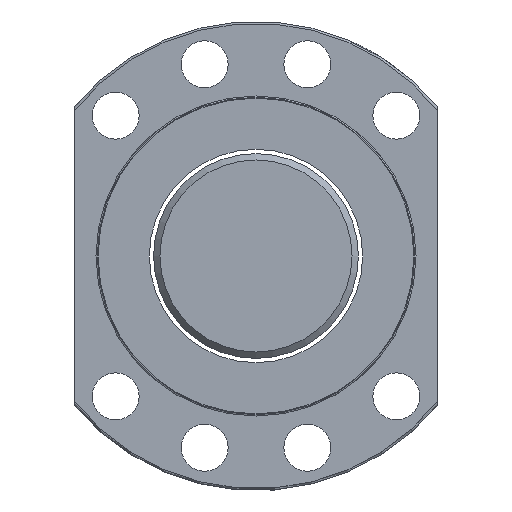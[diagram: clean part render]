
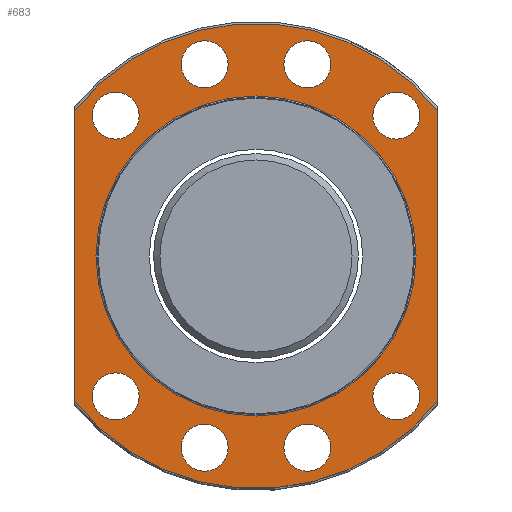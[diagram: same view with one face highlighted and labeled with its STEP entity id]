
A CAD part, left-side view. The second image highlights one B-rep face of the part: STEP entity #683.
In plain terms, the highlighted planar face has unit normal (-1, 0, 0).
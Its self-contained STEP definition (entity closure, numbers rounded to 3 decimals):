
#81=LINE('',#1159,#89);
#82=LINE('',#1189,#90);
#89=VECTOR('',#926,1000.);
#90=VECTOR('',#929,1000.);
#123=PLANE('',#797);
#223=ORIENTED_EDGE('',*,*,#328,.F.);
#224=ORIENTED_EDGE('',*,*,#329,.F.);
#225=ORIENTED_EDGE('',*,*,#330,.F.);
#226=ORIENTED_EDGE('',*,*,#331,.F.);
#227=ORIENTED_EDGE('',*,*,#332,.F.);
#228=ORIENTED_EDGE('',*,*,#333,.F.);
#229=ORIENTED_EDGE('',*,*,#334,.F.);
#230=ORIENTED_EDGE('',*,*,#335,.F.);
#231=ORIENTED_EDGE('',*,*,#338,.T.);
#232=ORIENTED_EDGE('',*,*,#319,.F.);
#233=ORIENTED_EDGE('',*,*,#339,.F.);
#234=ORIENTED_EDGE('',*,*,#325,.T.);
#235=ORIENTED_EDGE('',*,*,#340,.F.);
#319=EDGE_CURVE('',#393,#394,#81,.T.);
#325=EDGE_CURVE('',#397,#396,#82,.T.);
#328=EDGE_CURVE('',#399,#399,#444,.T.);
#329=EDGE_CURVE('',#400,#400,#445,.T.);
#330=EDGE_CURVE('',#401,#401,#446,.T.);
#331=EDGE_CURVE('',#402,#402,#447,.T.);
#332=EDGE_CURVE('',#403,#403,#448,.T.);
#333=EDGE_CURVE('',#404,#404,#449,.T.);
#334=EDGE_CURVE('',#405,#405,#450,.T.);
#335=EDGE_CURVE('',#406,#406,#451,.T.);
#338=EDGE_CURVE('',#409,#409,#454,.T.);
#339=EDGE_CURVE('',#397,#393,#455,.T.);
#340=EDGE_CURVE('',#394,#396,#456,.T.);
#393=VERTEX_POINT('',#1158);
#394=VERTEX_POINT('',#1160);
#396=VERTEX_POINT('',#1188);
#397=VERTEX_POINT('',#1190);
#399=VERTEX_POINT('',#1200);
#400=VERTEX_POINT('',#1203);
#401=VERTEX_POINT('',#1206);
#402=VERTEX_POINT('',#1209);
#403=VERTEX_POINT('',#1212);
#404=VERTEX_POINT('',#1215);
#405=VERTEX_POINT('',#1218);
#406=VERTEX_POINT('',#1221);
#409=VERTEX_POINT('',#1230);
#444=CIRCLE('',#775,5.5);
#445=CIRCLE('',#777,5.5);
#446=CIRCLE('',#779,5.5);
#447=CIRCLE('',#781,5.5);
#448=CIRCLE('',#783,5.5);
#449=CIRCLE('',#785,5.5);
#450=CIRCLE('',#787,5.5);
#451=CIRCLE('',#789,5.5);
#454=CIRCLE('',#795,37.5);
#455=CIRCLE('',#798,54.5);
#456=CIRCLE('',#799,54.5);
#531=EDGE_LOOP('',(#223));
#532=EDGE_LOOP('',(#224));
#533=EDGE_LOOP('',(#225));
#534=EDGE_LOOP('',(#226));
#535=EDGE_LOOP('',(#227));
#536=EDGE_LOOP('',(#228));
#537=EDGE_LOOP('',(#229));
#538=EDGE_LOOP('',(#230));
#539=EDGE_LOOP('',(#231));
#540=EDGE_LOOP('',(#232,#233,#234,#235));
#624=FACE_BOUND('',#531,.T.);
#625=FACE_BOUND('',#532,.T.);
#626=FACE_BOUND('',#533,.T.);
#627=FACE_BOUND('',#534,.T.);
#628=FACE_BOUND('',#535,.T.);
#629=FACE_BOUND('',#536,.T.);
#630=FACE_BOUND('',#537,.T.);
#631=FACE_BOUND('',#538,.T.);
#632=FACE_BOUND('',#539,.T.);
#633=FACE_BOUND('',#540,.T.);
#683=ADVANCED_FACE('',(#624,#625,#626,#627,#628,#629,#630,#631,#632,#633),
#123,.T.);
#775=AXIS2_PLACEMENT_3D('',#1199,#933,#934);
#777=AXIS2_PLACEMENT_3D('',#1202,#937,#938);
#779=AXIS2_PLACEMENT_3D('',#1205,#941,#942);
#781=AXIS2_PLACEMENT_3D('',#1208,#945,#946);
#783=AXIS2_PLACEMENT_3D('',#1211,#949,#950);
#785=AXIS2_PLACEMENT_3D('',#1214,#953,#954);
#787=AXIS2_PLACEMENT_3D('',#1217,#957,#958);
#789=AXIS2_PLACEMENT_3D('',#1220,#961,#962);
#795=AXIS2_PLACEMENT_3D('',#1229,#973,#974);
#797=AXIS2_PLACEMENT_3D('',#1232,#977,#978);
#798=AXIS2_PLACEMENT_3D('',#1233,#979,#980);
#799=AXIS2_PLACEMENT_3D('',#1234,#981,#982);
#926=DIRECTION('',(0.,0.,1.));
#929=DIRECTION('',(0.,0.,1.));
#933=DIRECTION('',(-1.,0.,0.));
#934=DIRECTION('',(0.,-1.,0.));
#937=DIRECTION('',(-1.,0.,0.));
#938=DIRECTION('',(0.,-1.,0.));
#941=DIRECTION('',(-1.,0.,0.));
#942=DIRECTION('',(0.,-1.,0.));
#945=DIRECTION('',(-1.,0.,0.));
#946=DIRECTION('',(0.,-1.,0.));
#949=DIRECTION('',(-1.,0.,0.));
#950=DIRECTION('',(0.,-1.,0.));
#953=DIRECTION('',(-1.,0.,0.));
#954=DIRECTION('',(0.,-1.,0.));
#957=DIRECTION('',(-1.,0.,0.));
#958=DIRECTION('',(0.,-1.,0.));
#961=DIRECTION('',(-1.,0.,0.));
#962=DIRECTION('',(0.,-1.,0.));
#973=DIRECTION('',(1.,0.,0.));
#974=DIRECTION('',(0.,1.,0.));
#977=DIRECTION('',(-1.,0.,0.));
#978=DIRECTION('',(0.,-1.,0.));
#979=DIRECTION('',(1.,0.,0.));
#980=DIRECTION('',(0.,1.,0.));
#981=DIRECTION('',(1.,0.,0.));
#982=DIRECTION('',(0.,1.,0.));
#1158=CARTESIAN_POINT('',(-38.,42.5,-34.117));
#1159=CARTESIAN_POINT('',(-38.,42.5,0.));
#1160=CARTESIAN_POINT('',(-38.,42.5,34.117));
#1188=CARTESIAN_POINT('',(-38.,-42.5,34.117));
#1189=CARTESIAN_POINT('',(-38.,-42.5,0.));
#1190=CARTESIAN_POINT('',(-38.,-42.5,-34.117));
#1199=CARTESIAN_POINT('',(-38.,32.88,-32.881));
#1200=CARTESIAN_POINT('',(-38.,27.38,-32.881));
#1202=CARTESIAN_POINT('',(-38.,-32.881,-32.881));
#1203=CARTESIAN_POINT('',(-38.,-38.381,-32.881));
#1205=CARTESIAN_POINT('',(-38.,32.88,32.881));
#1206=CARTESIAN_POINT('',(-38.,27.38,32.881));
#1208=CARTESIAN_POINT('',(-38.,-32.881,32.881));
#1209=CARTESIAN_POINT('',(-38.,-38.381,32.881));
#1211=CARTESIAN_POINT('',(-38.,12.035,-44.916));
#1212=CARTESIAN_POINT('',(-38.,6.535,-44.916));
#1214=CARTESIAN_POINT('',(-38.,-12.035,-44.916));
#1215=CARTESIAN_POINT('',(-38.,-17.535,-44.916));
#1217=CARTESIAN_POINT('',(-38.,-12.035,44.916));
#1218=CARTESIAN_POINT('',(-38.,-17.535,44.916));
#1220=CARTESIAN_POINT('',(-38.,12.035,44.916));
#1221=CARTESIAN_POINT('',(-38.,6.535,44.916));
#1229=CARTESIAN_POINT('',(-38.,0.,0.));
#1230=CARTESIAN_POINT('',(-38.,37.5,0.));
#1232=CARTESIAN_POINT('',(-38.,46.,0.));
#1233=CARTESIAN_POINT('',(-38.,0.,0.));
#1234=CARTESIAN_POINT('',(-38.,0.,0.));
